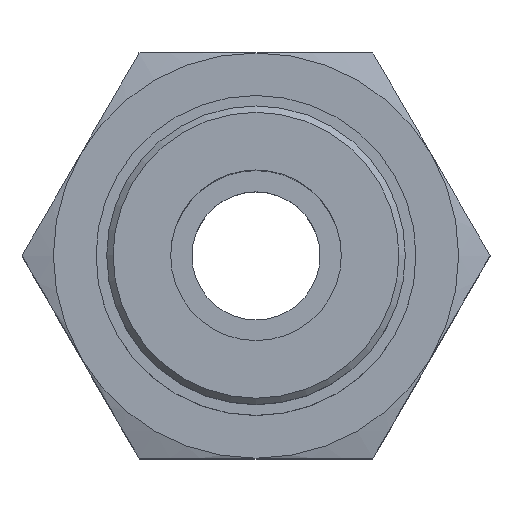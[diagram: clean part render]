
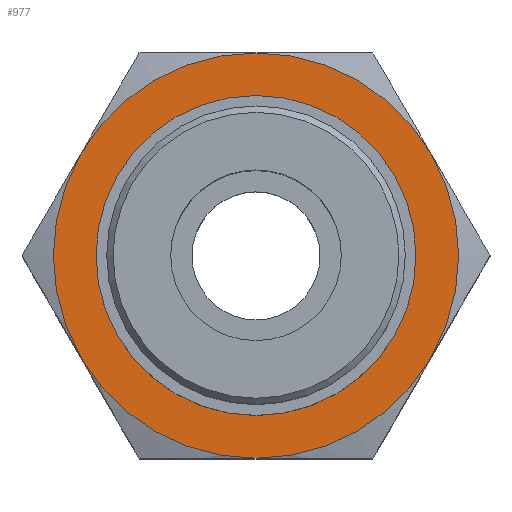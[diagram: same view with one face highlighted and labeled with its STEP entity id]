
A CAD part, top view. The second image highlights one B-rep face of the part: STEP entity #977.
In plain terms, the highlighted planar face has unit normal (0, 0, 1).
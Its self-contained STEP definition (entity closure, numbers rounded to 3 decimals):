
#78=FACE_BOUND('',#279,.T.);
#104=PLANE('',#1130);
#197=FACE_OUTER_BOUND('',#278,.T.);
#278=EDGE_LOOP('',(#886,#887,#888,#889,#890,#891));
#279=EDGE_LOOP('',(#892));
#387=CIRCLE('',#1100,9.5);
#388=CIRCLE('',#1102,9.5);
#389=CIRCLE('',#1104,9.5);
#390=CIRCLE('',#1106,9.5);
#391=CIRCLE('',#1108,9.5);
#392=CIRCLE('',#1110,9.5);
#397=CIRCLE('',#1123,7.5);
#466=VERTEX_POINT('',#1714);
#467=VERTEX_POINT('',#1718);
#469=VERTEX_POINT('',#1725);
#471=VERTEX_POINT('',#1735);
#473=VERTEX_POINT('',#1748);
#475=VERTEX_POINT('',#1758);
#481=VERTEX_POINT('',#1794);
#589=EDGE_CURVE('',#466,#467,#387,.T.);
#592=EDGE_CURVE('',#469,#466,#388,.T.);
#595=EDGE_CURVE('',#471,#469,#389,.T.);
#597=EDGE_CURVE('',#473,#471,#390,.T.);
#600=EDGE_CURVE('',#475,#473,#391,.T.);
#603=EDGE_CURVE('',#467,#475,#392,.T.);
#616=EDGE_CURVE('',#481,#481,#397,.T.);
#886=ORIENTED_EDGE('',*,*,#603,.T.);
#887=ORIENTED_EDGE('',*,*,#600,.T.);
#888=ORIENTED_EDGE('',*,*,#597,.T.);
#889=ORIENTED_EDGE('',*,*,#595,.T.);
#890=ORIENTED_EDGE('',*,*,#592,.T.);
#891=ORIENTED_EDGE('',*,*,#589,.T.);
#892=ORIENTED_EDGE('',*,*,#616,.T.);
#977=ADVANCED_FACE('',(#197,#78),#104,.T.);
#1100=AXIS2_PLACEMENT_3D('',#1722,#1348,#1349);
#1102=AXIS2_PLACEMENT_3D('',#1732,#1352,#1353);
#1104=AXIS2_PLACEMENT_3D('',#1742,#1356,#1357);
#1106=AXIS2_PLACEMENT_3D('',#1749,#1360,#1361);
#1108=AXIS2_PLACEMENT_3D('',#1759,#1364,#1365);
#1110=AXIS2_PLACEMENT_3D('',#1768,#1368,#1369);
#1123=AXIS2_PLACEMENT_3D('',#1796,#1401,#1402);
#1130=AXIS2_PLACEMENT_3D('',#1806,#1417,#1418);
#1348=DIRECTION('center_axis',(0.,0.,1.));
#1349=DIRECTION('ref_axis',(0.,-1.,0.));
#1352=DIRECTION('center_axis',(0.,0.,1.));
#1353=DIRECTION('ref_axis',(0.,-1.,0.));
#1356=DIRECTION('center_axis',(0.,0.,1.));
#1357=DIRECTION('ref_axis',(0.,-1.,0.));
#1360=DIRECTION('center_axis',(0.,0.,1.));
#1361=DIRECTION('ref_axis',(0.,-1.,0.));
#1364=DIRECTION('center_axis',(0.,0.,1.));
#1365=DIRECTION('ref_axis',(0.,-1.,0.));
#1368=DIRECTION('center_axis',(0.,0.,1.));
#1369=DIRECTION('ref_axis',(0.,-1.,0.));
#1401=DIRECTION('center_axis',(0.,0.,-1.));
#1402=DIRECTION('ref_axis',(1.,0.,0.));
#1417=DIRECTION('center_axis',(0.,0.,1.));
#1418=DIRECTION('ref_axis',(1.,0.,0.));
#1714=CARTESIAN_POINT('',(0.,9.5,10.5));
#1718=CARTESIAN_POINT('',(-8.227,4.75,10.5));
#1722=CARTESIAN_POINT('Origin',(0.,0.,10.5));
#1725=CARTESIAN_POINT('',(8.227,4.75,10.5));
#1732=CARTESIAN_POINT('Origin',(0.,0.,10.5));
#1735=CARTESIAN_POINT('',(8.227,-4.75,10.5));
#1742=CARTESIAN_POINT('Origin',(0.,0.,10.5));
#1748=CARTESIAN_POINT('',(0.,-9.5,10.5));
#1749=CARTESIAN_POINT('Origin',(0.,0.,10.5));
#1758=CARTESIAN_POINT('',(-8.227,-4.75,10.5));
#1759=CARTESIAN_POINT('Origin',(0.,0.,10.5));
#1768=CARTESIAN_POINT('Origin',(0.,0.,10.5));
#1794=CARTESIAN_POINT('',(-7.5,0.,10.5));
#1796=CARTESIAN_POINT('Origin',(0.,0.,10.5));
#1806=CARTESIAN_POINT('Origin',(0.,0.,
10.5));
